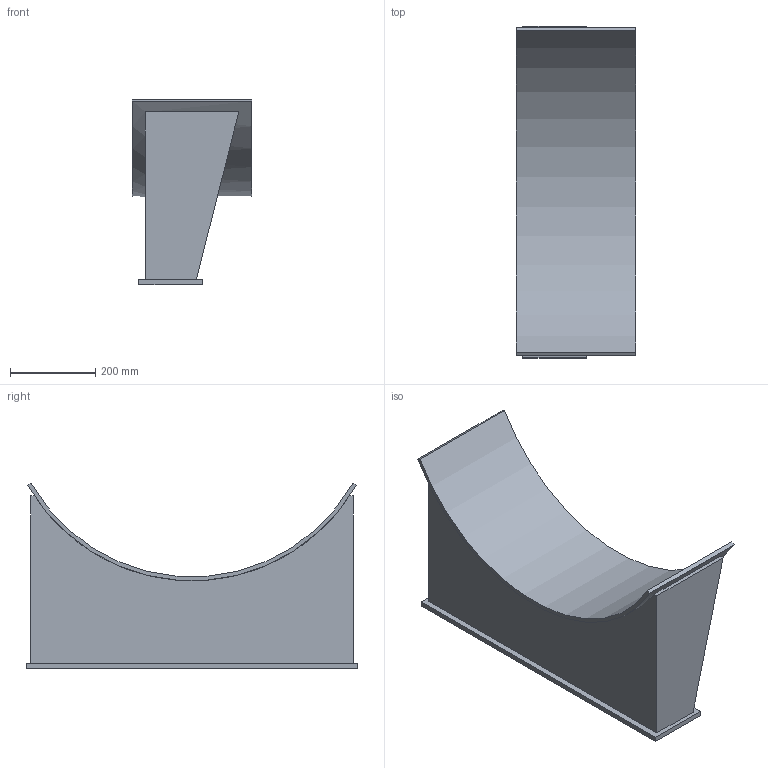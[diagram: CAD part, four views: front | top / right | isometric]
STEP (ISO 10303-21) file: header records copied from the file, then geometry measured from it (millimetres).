
FILE_DESCRIPTION(/* description */ (''),/* implementation_level */ '2;1');
FILE_NAME(/* name */ 'C:\Users\D\Documents\Inventor\HP\JPI\横置きタンクサドル\重荷重用\hc-saddle-hl_850.stp',/* time_stamp */ '2026-01-27T18:46:25+09:00',/* author */ ('D'),/* organization */ (''),/* preprocessor_version */ 'ST-DEVELOPER v18',/* originating_system */ 'Autodesk Inventor 2020',/* authorisation */ '');
FILE_SCHEMA (('AUTOMOTIVE_DESIGN { 1 0 10303 214 3 1 1 }'));
Length unit declared in the file: millimetre
Products named in the file (1): 200A
Bounding box: 280 x 780 x 436.41 mm (x, y, z)
Volume: 6821853.6 mm3; surface area: 1478870.5 mm2
Topology: 1 solids, 1 shells, 30 faces, 76 edges, 50 vertices
Faces by surface type: plane 26, cylinder 4
Full cylindrical faces by diameter (mm): 23 x2
Entity records: 967 total; most frequent: CARTESIAN_POINT 160, ORIENTED_EDGE 158, DIRECTION 154, EDGE_CURVE 79, LINE 66, VECTOR 66, VERTEX_POINT 50, AXIS2_PLACEMENT_3D 44
